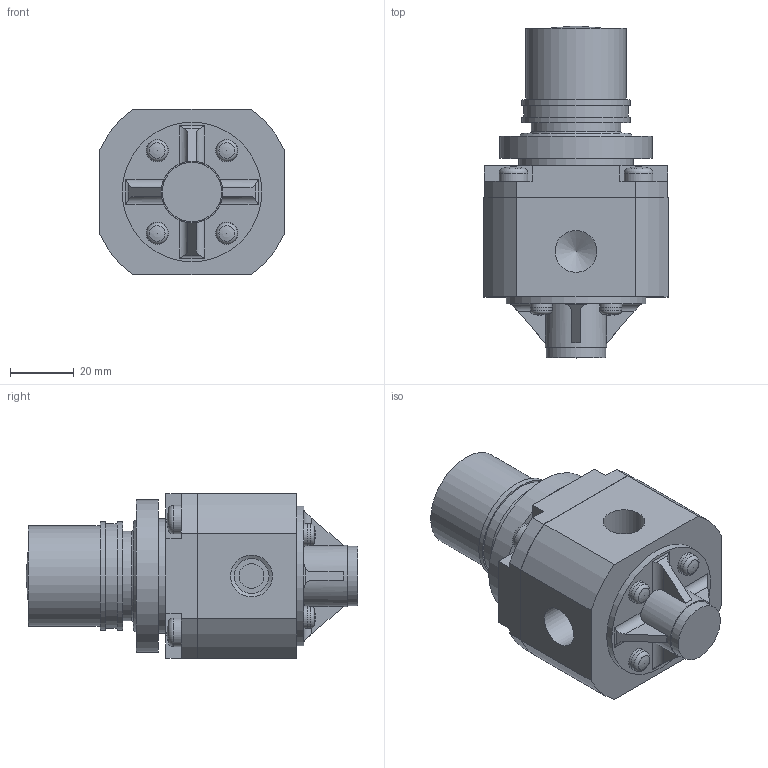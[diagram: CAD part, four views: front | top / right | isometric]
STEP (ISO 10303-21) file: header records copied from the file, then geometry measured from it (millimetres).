
FILE_DESCRIPTION(/* description */ ('STEP AP203'),/* implementation_level */ '2;1');
FILE_NAME(/* name */ 'SRH4010-02(1)',/* time_stamp */ '2026-03-25T01:09:08+01:00',/* author */ ('License CC BY-ND 4.0'),/* organization */ ('CADENAS'),/* preprocessor_version */ 'ST-DEVELOPER v20',/* originating_system */ 'PARTsolutions',/* authorisation */ ' ');
FILE_SCHEMA (('CONFIG_CONTROL_DESIGN'));
Length unit declared in the file: millimetre
Products named in the file (3): SRH4010-02(1); SRH4010-02(1)_BODY; M36x1.5_NUT
Assembly tree (2 placements, depth 2):
  SRH4010-02(1)
    SRH4010-02(1)_BODY
    M36x1.5_NUT
Bounding box: 58 x 104.5 x 52 mm (x, y, z)
Volume: 158649.7 mm3; surface area: 26944.4 mm2
Topology: 2 solids, 2 shells, 136 faces, 325 edges, 209 vertices
Faces by surface type: plane 60, cylinder 48, cone 10, torus 9, sphere 9
Full cylindrical faces by diameter (mm): 0.8 x1, 2.6 x1, 7 x4, 7.8 x2, 9 x4, 11 x2, 13.157 x3, 18.7 x1, 19.4 x1, 28.277 x1, 31.55 x1, 33 x1, 34 x2, 34.376 x1, 36 x1, 44 x1, 48 x1
Entity records: 3555 total; most frequent: CARTESIAN_POINT 632, DIRECTION 618, ORIENTED_EDGE 496, EDGE_CURVE 248, AXIS2_PLACEMENT_3D 247, FACE_BOUND 211, EDGE_LOOP 210, VERTEX_POINT 189
